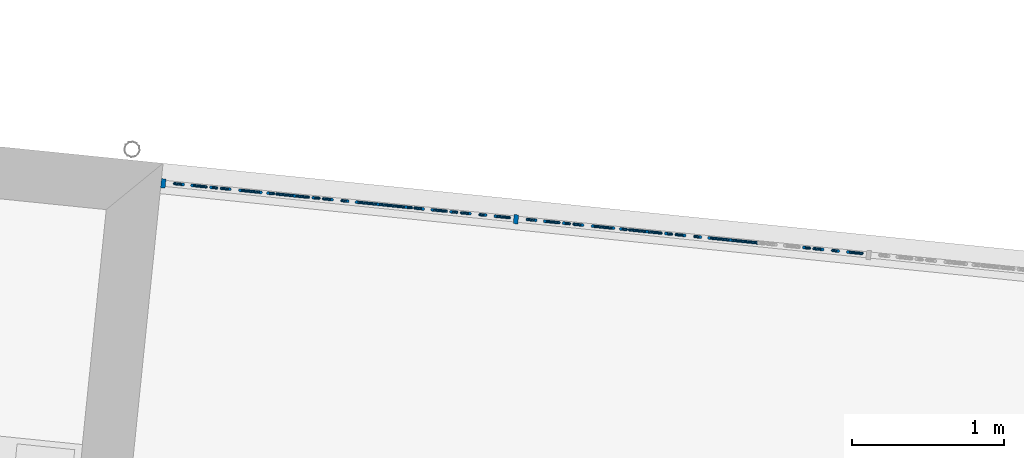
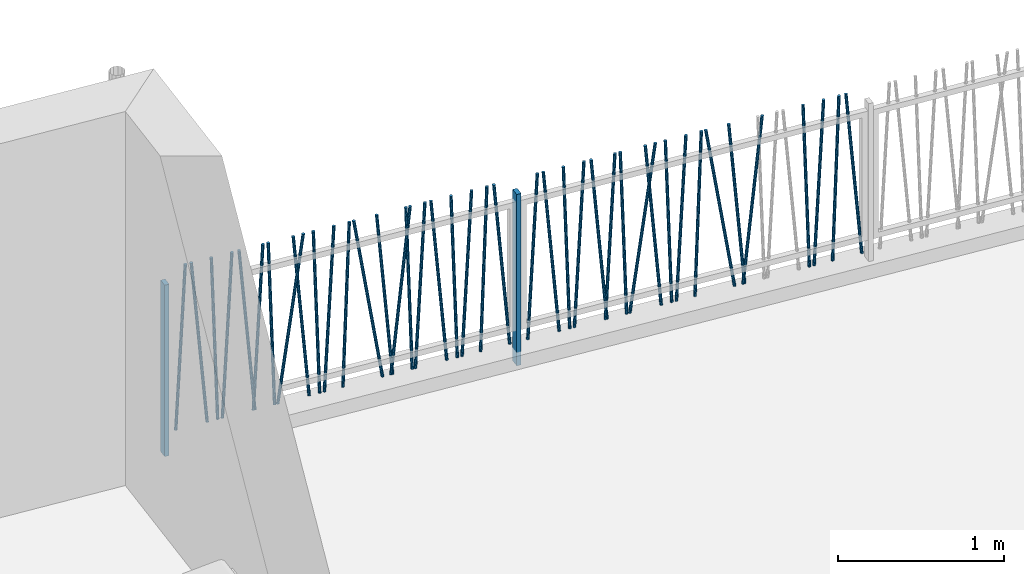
# One storey, part 15 of 171: 43 columns.
"""IFC2X3 building model written with IfcOpenShell, lengths in millimetres."""

from ifc_helpers import new_model, entity, si_unit, converted_unit, derived_unit, money_unit, direction, frame, origin_with_axes, origin_2d_with_axis, place, context, subcontext, project, spatial, rectangle, circle, extrude, clip, halfspace, material, type_object, element, save


model = new_model("IFC2X3")

# Units and contexts
model_context = context("Model", 3, precision=0.01, world=origin_with_axes(), true_north=direction((0.0, 1.0)))
body_context = subcontext(model_context, "Body", "Model", "MODEL_VIEW")
ifc_project = project(units=[si_unit("LENGTHUNIT", "METRE", prefix="MILLI"), si_unit("AREAUNIT", "SQUARE_METRE"), si_unit("VOLUMEUNIT", "CUBIC_METRE"), converted_unit("PLANEANGLEUNIT", "DEGREE", entity("IfcPlaneAngleMeasure", 0.0174532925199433), si_unit("PLANEANGLEUNIT", "RADIAN"), dimensions=[0, 0, 0, 0, 0, 0, 0]), money_unit("USD"), converted_unit("TIMEUNIT", "Year", entity("IfcTimeMeasure", 31557600.0), si_unit("TIMEUNIT", "SECOND"), dimensions=[0, 0, 1, 0, 0, 0, 0]), si_unit("MASSUNIT", "GRAM", prefix="KILO"), si_unit("THERMODYNAMICTEMPERATUREUNIT", "DEGREE_CELSIUS"), si_unit("LUMINOUSINTENSITYUNIT", "LUMEN"), si_unit("ENERGYUNIT", "JOULE", prefix="MEGA"), derived_unit("THERMALCONDUCTANCEUNIT", [(si_unit("POWERUNIT", "WATT"), 1), (si_unit("LENGTHUNIT", "METRE"), -1), (si_unit("THERMODYNAMICTEMPERATUREUNIT", "KELVIN"), -1)]), derived_unit("SPECIFICHEATCAPACITYUNIT", [(si_unit("ENERGYUNIT", "JOULE"), 1), (si_unit("MASSUNIT", "GRAM", prefix="KILO"), -1), (si_unit("THERMODYNAMICTEMPERATUREUNIT", "KELVIN"), -1)]), derived_unit("MASSDENSITYUNIT", [(si_unit("MASSUNIT", "GRAM", prefix="KILO"), 1), (si_unit("VOLUMEUNIT", "CUBIC_METRE"), -1)])], contexts=[model_context])

# Site, building, storey
site_placement = place(None, origin_with_axes())
site = spatial("IfcSite", under=ifc_project, at=site_placement, Name="Site", CompositionType="ELEMENT")
building_placement = place(site_placement, origin_with_axes())
building = spatial("IfcBuilding", under=site, at=building_placement, Name="Bâtiment", CompositionType="ELEMENT")
storey_placement = place(building_placement, frame((0.0, 0.0, 3000.0), z_axis=(0.0, 0.0, 1.0), x_axis=(1.0, 0.0, 0.0)))
storey = spatial("IfcBuildingStorey", under=building, at=storey_placement, Name="rdc", CompositionType="ELEMENT", Elevation=3000.0)

# Columns
ifc_material = material(Name="Empty Fill 2959611567")
column_type_1 = type_object("IfcColumnType", Name="Empty Fill 2959611567 D20", PredefinedType="NOTDEFINED")
column_1_placement = place(storey_placement, frame((2240769.213708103, -606421.2363160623, 149.9999999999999), z_axis=(0.0, 0.0, 1.0), x_axis=(-0.101103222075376, -0.9948759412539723, 0.0)))
element("IfcColumn", 1, at=column_1_placement, inside=storey, type_object=column_type_1, material=ifc_material, Name="Pilier-019", context=body_context, shape_type="Clipping", body=[
    clip(clip(extrude(circle(Radius=10.0, at=origin_2d_with_axis()), frame((0.0, -0.05485622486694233, -1.046719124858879), z_axis=(0.0, -0.05233595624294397, -0.9986295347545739), x_axis=(-1.0, 0.0, 0.0)), (0.0, 0.0, -1.0), 1203.743126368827), halfspace(frame((0.0, 0.0, 0.0), z_axis=(0.0, 0.0, 1.0), x_axis=(0.0, -1.0, 0.0)), True)), halfspace(frame((0.0, 0.0, 1200.0), z_axis=(0.0, 0.0, -1.0), x_axis=(0.0, 1.0, 0.0)), True)),
])
column_2_placement = place(storey_placement, frame((2241357.367310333, -606481.006807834, 149.9999999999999), z_axis=(0.0, 0.0, 1.0), x_axis=(-0.101103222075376, -0.9948759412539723, 0.0)))
element("IfcColumn", 2, at=column_2_placement, inside=storey, type_object=column_type_1, material=ifc_material, Name="Pilier-019", context=body_context, shape_type="Clipping", body=[
    clip(clip(extrude(circle(Radius=10.0, at=origin_2d_with_axis()), frame((0.0, -0.02437434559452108, -0.6979899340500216), z_axis=(0.0, -0.03489949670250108, -0.9993908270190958), x_axis=(-1.0, 0.0, 0.0)), (0.0, 0.0, -1.0), 1202.128283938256), halfspace(frame((0.0, 0.0, 0.0), z_axis=(0.0, 0.0, 1.0), x_axis=(0.0, -1.0, 0.0)), True)), halfspace(frame((0.0, 0.0, 1200.0), z_axis=(0.0, 0.0, -1.0), x_axis=(0.0, 1.0, 0.0)), True)),
])
column_3_placement = place(storey_placement, frame((2240908.314880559, -606435.3723265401, 149.9999999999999), z_axis=(0.0, 0.0, 1.0), x_axis=(0.1011032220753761, 0.9948759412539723, 0.0)))
element("IfcColumn", 3, at=column_3_placement, inside=storey, type_object=column_type_1, material=ifc_material, Name="Pilier-019", context=body_context, shape_type="Clipping", body=[
    clip(clip(extrude(circle(Radius=10.0, at=origin_2d_with_axis()), frame((0.0, -0.02437434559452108, -0.6979899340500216), z_axis=(0.0, 0.03489949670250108, 0.9993908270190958), x_axis=(1.0, 0.0, 0.0)), (0.0, 0.0, 1.0), 1202.128283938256), halfspace(frame((0.0, 0.0, 0.0), z_axis=(0.0, 0.0, 1.0), x_axis=(0.0, -1.0, 0.0)), True)), halfspace(frame((0.0, 0.0, 1200.0), z_axis=(0.0, 0.0, -1.0), x_axis=(0.0, 1.0, 0.0)), True)),
])
column_4_placement = place(storey_placement, frame((2241235.661183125, -606468.6385505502, 149.9999999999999), z_axis=(0.0, 0.0, 1.0), x_axis=(-0.101103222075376, -0.9948759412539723, 0.0)))
element("IfcColumn", 4, at=column_4_placement, inside=storey, type_object=column_type_1, material=ifc_material, Name="Pilier-019", context=body_context, shape_type="Clipping", body=[
    clip(clip(extrude(circle(Radius=10.0, at=origin_2d_with_axis()), frame((0.0, -0.05485622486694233, -1.046719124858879), z_axis=(0.0, -0.05233595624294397, -0.9986295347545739), x_axis=(-1.0, 0.0, 0.0)), (0.0, 0.0, -1.0), 1203.743126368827), halfspace(frame((0.0, 0.0, 0.0), z_axis=(0.0, 0.0, 1.0), x_axis=(0.0, -1.0, 0.0)), True)), halfspace(frame((0.0, 0.0, 1200.0), z_axis=(0.0, 0.0, -1.0), x_axis=(0.0, 1.0, 0.0)), True)),
])
column_5_placement = place(storey_placement, frame((2241683.275448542, -606514.1268799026, 149.9999999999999), z_axis=(0.0, 0.0, 1.0), x_axis=(0.1011032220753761, 0.9948759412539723, 0.0)))
element("IfcColumn", 5, at=column_5_placement, inside=storey, type_object=column_type_1, material=ifc_material, Name="Pilier-019", context=body_context, shape_type="Clipping", body=[
    clip(clip(extrude(circle(Radius=10.0, at=origin_2d_with_axis()), frame((0.0, -0.152502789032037, -1.743114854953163), z_axis=(0.0, 0.08715574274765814, 0.9961946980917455), x_axis=(1.0, 0.0, 0.0)), (0.0, 0.0, 1.0), 1208.083351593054), halfspace(frame((0.0, 0.0, 0.0), z_axis=(0.0, 0.0, 1.0), x_axis=(0.0, -1.0, 0.0)), True)), halfspace(frame((0.0, 0.0, 1200.0), z_axis=(0.0, 0.0, -1.0), x_axis=(0.0, 1.0, 0.0)), True)),
])
column_6_placement = place(storey_placement, frame((2241204.528377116, -606465.474711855, 149.9999999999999), z_axis=(0.0, 0.0, 1.0), x_axis=(0.1011032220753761, 0.9948759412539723, 0.0)))
element("IfcColumn", 6, at=column_6_placement, inside=storey, type_object=column_type_1, material=ifc_material, Name="Pilier-019", context=body_context, shape_type="Clipping", body=[
    clip(clip(extrude(circle(Radius=10.0, at=origin_2d_with_axis()), frame((0.0, -0.02437434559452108, -0.6979899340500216), z_axis=(0.0, 0.03489949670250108, 0.9993908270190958), x_axis=(1.0, 0.0, 0.0)), (0.0, 0.0, 1.0), 1202.128283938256), halfspace(frame((0.0, 0.0, 0.0), z_axis=(0.0, 0.0, 1.0), x_axis=(0.0, -1.0, 0.0)), True)), halfspace(frame((0.0, 0.0, 1200.0), z_axis=(0.0, 0.0, -1.0), x_axis=(0.0, 1.0, 0.0)), True)),
])
column_7_placement = place(storey_placement, frame((2242453.180223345, -606592.3676435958, 149.9999999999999), z_axis=(0.0, 0.0, 1.0), x_axis=(0.1011032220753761, 0.9948759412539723, 0.0)))
element("IfcColumn", 7, at=column_7_placement, inside=storey, type_object=column_type_1, material=ifc_material, Name="Pilier-019", context=body_context, shape_type="Clipping", body=[
    clip(clip(extrude(circle(Radius=10.0, at=origin_2d_with_axis()), frame((0.0, -0.152502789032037, -1.743114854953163), z_axis=(0.0, 0.08715574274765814, 0.9961946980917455), x_axis=(1.0, 0.0, 0.0)), (0.0, 0.0, 1.0), 1208.083351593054), halfspace(frame((0.0, 0.0, 0.0), z_axis=(0.0, 0.0, 1.0), x_axis=(0.0, -1.0, 0.0)), True)), halfspace(frame((0.0, 0.0, 1200.0), z_axis=(0.0, 0.0, -1.0), x_axis=(0.0, 1.0, 0.0)), True)),
])
column_8_placement = place(storey_placement, frame((2241617.366405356, -606507.4289426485, 149.9999999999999), z_axis=(0.0, 0.0, 1.0), x_axis=(0.1011032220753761, 0.9948759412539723, 0.0)))
element("IfcColumn", 8, at=column_8_placement, inside=storey, type_object=column_type_1, material=ifc_material, Name="Pilier-019", context=body_context, shape_type="Clipping", body=[
    clip(clip(extrude(circle(Radius=10.0, at=origin_2d_with_axis()), frame((0.0, -0.4955357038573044, -3.128689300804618), z_axis=(0.0, 0.1564344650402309, 0.9876883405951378), x_axis=(1.0, 0.0, 0.0)), (0.0, 0.0, 1.0), 1221.293528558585), halfspace(frame((0.0, 0.0, 0.0), z_axis=(0.0, 0.0, 1.0), x_axis=(0.0, -1.0, 0.0)), True)), halfspace(frame((0.0, 0.0, 1200.0), z_axis=(0.0, 0.0, -1.0), x_axis=(0.0, 1.0, 0.0)), True)),
])
column_9_placement = place(storey_placement, frame((2240565.676113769, -606400.5520219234, 149.9999999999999), z_axis=(0.0, 0.0, 1.0), x_axis=(-0.101103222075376, -0.9948759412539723, 0.0)))
element("IfcColumn", 9, at=column_9_placement, inside=storey, type_object=column_type_1, material=ifc_material, Name="Pilier-019", context=body_context, shape_type="Clipping", body=[
    clip(clip(extrude(circle(Radius=10.0, at=origin_2d_with_axis()), frame((0.0, -0.05485622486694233, -1.046719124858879), z_axis=(0.0, -0.05233595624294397, -0.9986295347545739), x_axis=(-1.0, 0.0, 0.0)), (0.0, 0.0, -1.0), 1203.743126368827), halfspace(frame((0.0, 0.0, 0.0), z_axis=(0.0, 0.0, 1.0), x_axis=(0.0, -1.0, 0.0)), True)), halfspace(frame((0.0, 0.0, 1200.0), z_axis=(0.0, 0.0, -1.0), x_axis=(0.0, 1.0, 0.0)), True)),
])
column_10_placement = place(storey_placement, frame((2240779.067597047, -606422.2377071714, 149.9999999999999), z_axis=(0.0, 0.0, 1.0), x_axis=(0.1011032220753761, 0.9948759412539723, 0.0)))
element("IfcColumn", 10, at=column_10_placement, inside=storey, type_object=column_type_1, material=ifc_material, Name="Pilier-019", context=body_context, shape_type="Clipping", body=[
    clip(clip(extrude(circle(Radius=10.0, at=origin_2d_with_axis()), frame((0.0, -0.152502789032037, -1.743114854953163), z_axis=(0.0, 0.08715574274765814, 0.9961946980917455), x_axis=(1.0, 0.0, 0.0)), (0.0, 0.0, 1.0), 1208.083351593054), halfspace(frame((0.0, 0.0, 0.0), z_axis=(0.0, 0.0, 1.0), x_axis=(0.0, -1.0, 0.0)), True)), halfspace(frame((0.0, 0.0, 1200.0), z_axis=(0.0, 0.0, -1.0), x_axis=(0.0, 1.0, 0.0)), True)),
])
column_11_placement = place(storey_placement, frame((2241673.421559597, -606513.1254887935, 149.9999999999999), z_axis=(0.0, 0.0, 1.0), x_axis=(-0.101103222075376, -0.9948759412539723, 0.0)))
element("IfcColumn", 11, at=column_11_placement, inside=storey, type_object=column_type_1, material=ifc_material, Name="Pilier-019", context=body_context, shape_type="Clipping", body=[
    clip(clip(extrude(circle(Radius=10.0, at=origin_2d_with_axis()), frame((0.0, -0.2197276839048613, -2.090569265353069), z_axis=(0.0, -0.1045284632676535, -0.9945218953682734), x_axis=(-1.0, 0.0, 0.0)), (0.0, 0.0, -1.0), 1210.814104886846), halfspace(frame((0.0, 0.0, 0.0), z_axis=(0.0, 0.0, 1.0), x_axis=(0.0, -1.0, 0.0)), True)), halfspace(frame((0.0, 0.0, 1200.0), z_axis=(0.0, 0.0, -1.0), x_axis=(0.0, 1.0, 0.0)), True)),
])
column_12_placement = place(storey_placement, frame((2241135.419969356, -606458.4516425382, 149.9999999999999), z_axis=(0.0, 0.0, 1.0), x_axis=(0.1011032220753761, 0.9948759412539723, 0.0)))
element("IfcColumn", 12, at=column_12_placement, inside=storey, type_object=column_type_1, material=ifc_material, Name="Pilier-019", context=body_context, shape_type="Clipping", body=[
    clip(clip(extrude(circle(Radius=10.0, at=origin_2d_with_axis()), frame((0.0, -0.152502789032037, -1.743114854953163), z_axis=(0.0, 0.08715574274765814, 0.9961946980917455), x_axis=(1.0, 0.0, 0.0)), (0.0, 0.0, 1.0), 1208.083351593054), halfspace(frame((0.0, 0.0, 0.0), z_axis=(0.0, 0.0, 1.0), x_axis=(0.0, -1.0, 0.0)), True)), halfspace(frame((0.0, 0.0, 1200.0), z_axis=(0.0, 0.0, -1.0), x_axis=(0.0, 1.0, 0.0)), True)),
])
column_13_placement = place(storey_placement, frame((2242139.86903462, -606560.5277232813, 149.9999999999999), z_axis=(0.0, 0.0, 1.0), x_axis=(-0.101103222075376, -0.9948759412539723, 0.0)))
element("IfcColumn", 13, at=column_13_placement, inside=storey, type_object=column_type_1, material=ifc_material, Name="Pilier-019", context=body_context, shape_type="Clipping", body=[
    clip(clip(extrude(circle(Radius=10.0, at=origin_2d_with_axis()), frame((0.0, -0.05485622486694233, -1.046719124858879), z_axis=(0.0, -0.05233595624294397, -0.9986295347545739), x_axis=(-1.0, 0.0, 0.0)), (0.0, 0.0, -1.0), 1203.743126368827), halfspace(frame((0.0, 0.0, 0.0), z_axis=(0.0, 0.0, 1.0), x_axis=(0.0, -1.0, 0.0)), True)), halfspace(frame((0.0, 0.0, 1200.0), z_axis=(0.0, 0.0, -1.0), x_axis=(0.0, 1.0, 0.0)), True)),
])
for number, where, z_axis, x_axis, name in (
    (14, (2240534.54330776, -606397.3881832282, 149.9999999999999), (0.0, 0.0, 1.0), (0.1011032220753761, 0.9948759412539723, 0.0), "Pilier-019"),
    (15, (2242108.736228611, -606557.3638845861, 149.9999999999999), (0.0, 0.0, 1.0), (0.1011032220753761, 0.9948759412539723, 0.0), "Pilier-019"),
):
    element("IfcColumn", number, at=place(storey_placement, frame(where, z_axis=z_axis, x_axis=x_axis)), inside=storey, type_object=column_type_1, material=ifc_material, Name=name, context=body_context, shape_type="Clipping", body=[
        clip(clip(extrude(circle(Radius=10.0, at=origin_2d_with_axis()), frame((0.0, -0.02437434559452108, -0.6979899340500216), z_axis=(0.0, 0.03489949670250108, 0.9993908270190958), x_axis=(1.0, 0.0, 0.0)), (0.0, 0.0, 1.0), 1202.128283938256), halfspace(frame((0.0, 0.0, 0.0), z_axis=(0.0, 0.0, 1.0), x_axis=(0.0, -1.0, 0.0)), True)), halfspace(frame((0.0, 0.0, 1200.0), z_axis=(0.0, 0.0, -1.0), x_axis=(0.0, 1.0, 0.0)), True)),
    ])
column_14_placement = place(storey_placement, frame((2240929.340963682, -606437.5090801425, 149.9999999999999), z_axis=(0.0, 0.0, 1.0), x_axis=(-0.101103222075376, -0.9948759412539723, 0.0)))
element("IfcColumn", 16, at=column_14_placement, inside=storey, type_object=column_type_1, material=ifc_material, Name="Pilier-019", context=body_context, shape_type="Clipping", body=[
    clip(clip(extrude(circle(Radius=10.0, at=origin_2d_with_axis()), frame((0.0, -0.3911900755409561, -2.78346201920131), z_axis=(0.0, -0.1391731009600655, -0.9902680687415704), x_axis=(-1.0, 0.0, 0.0)), (0.0, 0.0, -1.0), 1217.414720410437), halfspace(frame((0.0, 0.0, 0.0), z_axis=(0.0, 0.0, 1.0), x_axis=(0.0, -1.0, 0.0)), True)), halfspace(frame((0.0, 0.0, 1200.0), z_axis=(0.0, 0.0, -1.0), x_axis=(0.0, 1.0, 0.0)), True)),
])
column_15_placement = place(storey_placement, frame((2241833.548815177, -606529.3982528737, 149.9999999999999), z_axis=(0.0, 0.0, 1.0), x_axis=(-0.101103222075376, -0.9948759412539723, 0.0)))
element("IfcColumn", 17, at=column_15_placement, inside=storey, type_object=column_type_1, material=ifc_material, Name="Pilier-019", context=body_context, shape_type="Clipping", body=[
    clip(clip(extrude(circle(Radius=10.0, at=origin_2d_with_axis()), frame((0.0, -0.05485622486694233, -1.046719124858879), z_axis=(0.0, -0.05233595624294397, -0.9986295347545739), x_axis=(-1.0, 0.0, 0.0)), (0.0, 0.0, -1.0), 1203.743126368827), halfspace(frame((0.0, 0.0, 0.0), z_axis=(0.0, 0.0, 1.0), x_axis=(0.0, -1.0, 0.0)), True)), halfspace(frame((0.0, 0.0, 1200.0), z_axis=(0.0, 0.0, -1.0), x_axis=(0.0, 1.0, 0.0)), True)),
])
column_16_placement = place(storey_placement, frame((2242261.575161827, -606572.8959805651, 149.9999999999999), z_axis=(0.0, 0.0, 1.0), x_axis=(-0.101103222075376, -0.9948759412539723, 0.0)))
element("IfcColumn", 18, at=column_16_placement, inside=storey, type_object=column_type_1, material=ifc_material, Name="Pilier-019", context=body_context, shape_type="Clipping", body=[
    clip(clip(extrude(circle(Radius=10.0, at=origin_2d_with_axis()), frame((0.0, -0.02437434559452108, -0.6979899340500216), z_axis=(0.0, -0.03489949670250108, -0.9993908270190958), x_axis=(-1.0, 0.0, 0.0)), (0.0, 0.0, -1.0), 1202.128283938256), halfspace(frame((0.0, 0.0, 0.0), z_axis=(0.0, 0.0, 1.0), x_axis=(0.0, -1.0, 0.0)), True)), halfspace(frame((0.0, 0.0, 1200.0), z_axis=(0.0, 0.0, -1.0), x_axis=(0.0, 1.0, 0.0)), True)),
])
column_17_placement = place(storey_placement, frame((2242039.627820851, -606550.3408152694, 149.9999999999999), z_axis=(0.0, 0.0, 1.0), x_axis=(0.1011032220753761, 0.9948759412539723, 0.0)))
element("IfcColumn", 19, at=column_17_placement, inside=storey, type_object=column_type_1, material=ifc_material, Name="Pilier-019", context=body_context, shape_type="Clipping", body=[
    clip(clip(extrude(circle(Radius=10.0, at=origin_2d_with_axis()), frame((0.0, -0.152502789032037, -1.743114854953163), z_axis=(0.0, 0.08715574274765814, 0.9961946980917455), x_axis=(1.0, 0.0, 0.0)), (0.0, 0.0, 1.0), 1208.083351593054), halfspace(frame((0.0, 0.0, 0.0), z_axis=(0.0, 0.0, 1.0), x_axis=(0.0, -1.0, 0.0)), True)), halfspace(frame((0.0, 0.0, 1200.0), z_axis=(0.0, 0.0, -1.0), x_axis=(0.0, 1.0, 0.0)), True)),
])
column_18_placement = place(storey_placement, frame((2241812.522732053, -606527.2614992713, 149.9999999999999), z_axis=(0.0, 0.0, 1.0), x_axis=(0.1011032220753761, 0.9948759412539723, 0.0)))
element("IfcColumn", 20, at=column_18_placement, inside=storey, type_object=column_type_1, material=ifc_material, Name="Pilier-019", context=body_context, shape_type="Clipping", body=[
    clip(clip(extrude(circle(Radius=10.0, at=origin_2d_with_axis()), frame((0.0, -0.02437434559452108, -0.6979899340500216), z_axis=(0.0, 0.03489949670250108, 0.9993908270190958), x_axis=(1.0, 0.0, 0.0)), (0.0, 0.0, 1.0), 1202.128283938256), halfspace(frame((0.0, 0.0, 0.0), z_axis=(0.0, 0.0, 1.0), x_axis=(0.0, -1.0, 0.0)), True)), halfspace(frame((0.0, 0.0, 1200.0), z_axis=(0.0, 0.0, -1.0), x_axis=(0.0, 1.0, 0.0)), True)),
])
column_19_placement = place(storey_placement, frame((2240465.4349, -606390.3651139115, 149.9999999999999), z_axis=(0.0, 0.0, 1.0), x_axis=(0.1011032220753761, 0.9948759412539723, 0.0)))
element("IfcColumn", 21, at=column_19_placement, inside=storey, type_object=column_type_1, material=ifc_material, Name="Pilier-019", context=body_context, shape_type="Clipping", body=[
    clip(clip(extrude(circle(Radius=10.0, at=origin_2d_with_axis()), frame((0.0, -0.152502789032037, -1.743114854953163), z_axis=(0.0, 0.08715574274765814, 0.9961946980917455), x_axis=(1.0, 0.0, 0.0)), (0.0, 0.0, 1.0), 1208.083351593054), halfspace(frame((0.0, 0.0, 0.0), z_axis=(0.0, 0.0, 1.0), x_axis=(0.0, -1.0, 0.0)), True)), halfspace(frame((0.0, 0.0, 1200.0), z_axis=(0.0, 0.0, -1.0), x_axis=(0.0, 1.0, 0.0)), True)),
])
column_20_placement = place(storey_placement, frame((2243669.924578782, -606716.0180101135, 149.9999999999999), z_axis=(0.0, 0.0, 1.0), x_axis=(-0.101103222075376, -0.9948759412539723, 0.0)))
element("IfcColumn", 22, at=column_20_placement, inside=storey, type_object=column_type_1, material=ifc_material, Name="Pilier-019", context=body_context, shape_type="Clipping", body=[
    clip(clip(extrude(circle(Radius=10.0, at=origin_2d_with_axis()), frame((0.0, -0.02437434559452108, -0.6979899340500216), z_axis=(0.0, -0.03489949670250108, -0.9993908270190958), x_axis=(-1.0, 0.0, 0.0)), (0.0, 0.0, -1.0), 1202.128283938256), halfspace(frame((0.0, 0.0, 0.0), z_axis=(0.0, 0.0, 1.0), x_axis=(0.0, -1.0, 0.0)), True)), halfspace(frame((0.0, 0.0, 1200.0), z_axis=(0.0, 0.0, -1.0), x_axis=(0.0, 1.0, 0.0)), True)),
])
column_21_placement = place(storey_placement, frame((2243517.085645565, -606700.4859141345, 149.9999999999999), z_axis=(0.0, 0.0, 1.0), x_axis=(0.1011032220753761, 0.9948759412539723, 0.0)))
element("IfcColumn", 23, at=column_21_placement, inside=storey, type_object=column_type_1, material=ifc_material, Name="Pilier-019", context=body_context, shape_type="Clipping", body=[
    clip(clip(extrude(circle(Radius=10.0, at=origin_2d_with_axis()), frame((0.0, -0.02437434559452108, -0.6979899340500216), z_axis=(0.0, 0.03489949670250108, 0.9993908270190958), x_axis=(1.0, 0.0, 0.0)), (0.0, 0.0, 1.0), 1202.128283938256), halfspace(frame((0.0, 0.0, 0.0), z_axis=(0.0, 0.0, 1.0), x_axis=(0.0, -1.0, 0.0)), True)), halfspace(frame((0.0, 0.0, 1200.0), z_axis=(0.0, 0.0, -1.0), x_axis=(0.0, 1.0, 0.0)), True)),
])
column_22_placement = place(storey_placement, frame((2243081.770976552, -606656.2475183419, 149.9999999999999), z_axis=(0.0, 0.0, 1.0), x_axis=(-0.101103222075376, -0.9948759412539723, 0.0)))
element("IfcColumn", 24, at=column_22_placement, inside=storey, type_object=column_type_1, material=ifc_material, Name="Pilier-019", context=body_context, shape_type="Clipping", body=[
    clip(clip(extrude(circle(Radius=10.0, at=origin_2d_with_axis()), frame((0.0, -0.05485622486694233, -1.046719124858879), z_axis=(0.0, -0.05233595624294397, -0.9986295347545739), x_axis=(-1.0, 0.0, 0.0)), (0.0, 0.0, -1.0), 1203.743126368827), halfspace(frame((0.0, 0.0, 0.0), z_axis=(0.0, 0.0, 1.0), x_axis=(0.0, -1.0, 0.0)), True)), halfspace(frame((0.0, 0.0, 1200.0), z_axis=(0.0, 0.0, -1.0), x_axis=(0.0, 1.0, 0.0)), True)),
])
column_23_placement = place(storey_placement, frame((2243220.872149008, -606670.3835288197, 149.9999999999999), z_axis=(0.0, 0.0, 1.0), x_axis=(0.1011032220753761, 0.9948759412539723, 0.0)))
element("IfcColumn", 25, at=column_23_placement, inside=storey, type_object=column_type_1, material=ifc_material, Name="Pilier-019", context=body_context, shape_type="Clipping", body=[
    clip(clip(extrude(circle(Radius=10.0, at=origin_2d_with_axis()), frame((0.0, -0.02437434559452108, -0.6979899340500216), z_axis=(0.0, 0.03489949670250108, 0.9993908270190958), x_axis=(1.0, 0.0, 0.0)), (0.0, 0.0, 1.0), 1202.128283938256), halfspace(frame((0.0, 0.0, 0.0), z_axis=(0.0, 0.0, 1.0), x_axis=(0.0, -1.0, 0.0)), True)), halfspace(frame((0.0, 0.0, 1200.0), z_axis=(0.0, 0.0, -1.0), x_axis=(0.0, 1.0, 0.0)), True)),
])
for number, where, z_axis, x_axis, name in (
    (26, (2243548.218451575, -606703.6497528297, 149.9999999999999), (0.0, 0.0, 1.0), (-0.101103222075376, -0.9948759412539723, 0.0), "Pilier-019"),
    (27, (2240259.355894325, -606369.4225515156, 149.9999999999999), (0.0, 0.0, 1.0), (-0.101103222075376, -0.9948759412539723, 0.0), "Pilier-019"),
):
    element("IfcColumn", number, at=place(storey_placement, frame(where, z_axis=z_axis, x_axis=x_axis)), inside=storey, type_object=column_type_1, material=ifc_material, Name=name, context=body_context, shape_type="Clipping", body=[
        clip(clip(extrude(circle(Radius=10.0, at=origin_2d_with_axis()), frame((0.0, -0.05485622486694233, -1.046719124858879), z_axis=(0.0, -0.05233595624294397, -0.9986295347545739), x_axis=(-1.0, 0.0, 0.0)), (0.0, 0.0, -1.0), 1203.743126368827), halfspace(frame((0.0, 0.0, 0.0), z_axis=(0.0, 0.0, 1.0), x_axis=(0.0, -1.0, 0.0)), True)), halfspace(frame((0.0, 0.0, 1200.0), z_axis=(0.0, 0.0, -1.0), x_axis=(0.0, 1.0, 0.0)), True)),
    ])
for number, where, z_axis, x_axis, name in (
    (28, (2244765.737491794, -606827.3788458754, 149.9999999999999), (0.0, 0.0, 1.0), (0.1011032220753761, 0.9948759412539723, 0.0), "Pilier-019"),
    (29, (2243995.832716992, -606749.138082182, 149.9999999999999), (0.0, 0.0, 1.0), (0.1011032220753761, 0.9948759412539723, 0.0), "Pilier-019"),
):
    element("IfcColumn", number, at=place(storey_placement, frame(where, z_axis=z_axis, x_axis=x_axis)), inside=storey, type_object=column_type_1, material=ifc_material, Name=name, context=body_context, shape_type="Clipping", body=[
        clip(clip(extrude(circle(Radius=10.0, at=origin_2d_with_axis()), frame((0.0, -0.152502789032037, -1.743114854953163), z_axis=(0.0, 0.08715574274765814, 0.9961946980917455), x_axis=(1.0, 0.0, 0.0)), (0.0, 0.0, 1.0), 1208.083351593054), halfspace(frame((0.0, 0.0, 0.0), z_axis=(0.0, 0.0, 1.0), x_axis=(0.0, -1.0, 0.0)), True)), halfspace(frame((0.0, 0.0, 1200.0), z_axis=(0.0, 0.0, -1.0), x_axis=(0.0, 1.0, 0.0)), True)),
    ])
column_24_placement = place(storey_placement, frame((2242878.233382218, -606635.5632242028, 149.9999999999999), z_axis=(0.0, 0.0, 1.0), x_axis=(-0.101103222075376, -0.9948759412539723, 0.0)))
element("IfcColumn", 30, at=column_24_placement, inside=storey, type_object=column_type_1, material=ifc_material, Name="Pilier-019", context=body_context, shape_type="Clipping", body=[
    clip(clip(extrude(circle(Radius=10.0, at=origin_2d_with_axis()), frame((0.0, -0.05485622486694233, -1.046719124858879), z_axis=(0.0, -0.05233595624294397, -0.9986295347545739), x_axis=(-1.0, 0.0, 0.0)), (0.0, 0.0, -1.0), 1203.743126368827), halfspace(frame((0.0, 0.0, 0.0), z_axis=(0.0, 0.0, 1.0), x_axis=(0.0, -1.0, 0.0)), True)), halfspace(frame((0.0, 0.0, 1200.0), z_axis=(0.0, 0.0, -1.0), x_axis=(0.0, 1.0, 0.0)), True)),
])
column_25_placement = place(storey_placement, frame((2242847.100576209, -606632.3993855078, 149.9999999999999), z_axis=(0.0, 0.0, 1.0), x_axis=(0.1011032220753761, 0.9948759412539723, 0.0)))
element("IfcColumn", 31, at=column_25_placement, inside=storey, type_object=column_type_1, material=ifc_material, Name="Pilier-019", context=body_context, shape_type="Clipping", body=[
    clip(clip(extrude(circle(Radius=10.0, at=origin_2d_with_axis()), frame((0.0, -0.02437434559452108, -0.6979899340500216), z_axis=(0.0, 0.03489949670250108, 0.9993908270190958), x_axis=(1.0, 0.0, 0.0)), (0.0, 0.0, 1.0), 1202.128283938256), halfspace(frame((0.0, 0.0, 0.0), z_axis=(0.0, 0.0, 1.0), x_axis=(0.0, -1.0, 0.0)), True)), halfspace(frame((0.0, 0.0, 1200.0), z_axis=(0.0, 0.0, -1.0), x_axis=(0.0, 1.0, 0.0)), True)),
])
column_26_placement = place(storey_placement, frame((2243241.898232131, -606672.5202824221, 149.9999999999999), z_axis=(0.0, 0.0, 1.0), x_axis=(-0.101103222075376, -0.9948759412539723, 0.0)))
element("IfcColumn", 32, at=column_26_placement, inside=storey, type_object=column_type_1, material=ifc_material, Name="Pilier-019", context=body_context, shape_type="Clipping", body=[
    clip(clip(extrude(circle(Radius=10.0, at=origin_2d_with_axis()), frame((0.0, -0.3911900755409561, -2.78346201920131), z_axis=(0.0, -0.1391731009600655, -0.9902680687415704), x_axis=(-1.0, 0.0, 0.0)), (0.0, 0.0, -1.0), 1217.414720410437), halfspace(frame((0.0, 0.0, 0.0), z_axis=(0.0, 0.0, 1.0), x_axis=(0.0, -1.0, 0.0)), True)), halfspace(frame((0.0, 0.0, 1200.0), z_axis=(0.0, 0.0, -1.0), x_axis=(0.0, 1.0, 0.0)), True)),
])
for number, where, z_axis, x_axis, name in (
    (33, (2243447.977237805, -606693.4628448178, 149.9999999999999), (0.0, 0.0, 1.0), (0.1011032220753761, 0.9948759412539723, 0.0), "Pilier-019"),
    (34, (2243091.624865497, -606657.248909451, 149.9999999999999), (0.0, 0.0, 1.0), (0.1011032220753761, 0.9948759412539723, 0.0), "Pilier-019"),
):
    element("IfcColumn", number, at=place(storey_placement, frame(where, z_axis=z_axis, x_axis=x_axis)), inside=storey, type_object=column_type_1, material=ifc_material, Name=name, context=body_context, shape_type="Clipping", body=[
        clip(clip(extrude(circle(Radius=10.0, at=origin_2d_with_axis()), frame((0.0, -0.152502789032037, -1.743114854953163), z_axis=(0.0, 0.08715574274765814, 0.9961946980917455), x_axis=(1.0, 0.0, 0.0)), (0.0, 0.0, 1.0), 1208.083351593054), halfspace(frame((0.0, 0.0, 0.0), z_axis=(0.0, 0.0, 1.0), x_axis=(0.0, -1.0, 0.0)), True)), halfspace(frame((0.0, 0.0, 1200.0), z_axis=(0.0, 0.0, -1.0), x_axis=(0.0, 1.0, 0.0)), True)),
    ])
column_27_placement = place(storey_placement, frame((2244452.42630307, -606795.5389255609, 149.9999999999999), z_axis=(0.0, 0.0, 1.0), x_axis=(-0.101103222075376, -0.9948759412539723, 0.0)))
element("IfcColumn", 35, at=column_27_placement, inside=storey, type_object=column_type_1, material=ifc_material, Name="Pilier-019", context=body_context, shape_type="Clipping", body=[
    clip(clip(extrude(circle(Radius=10.0, at=origin_2d_with_axis()), frame((0.0, -0.05485622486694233, -1.046719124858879), z_axis=(0.0, -0.05233595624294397, -0.9986295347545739), x_axis=(-1.0, 0.0, 0.0)), (0.0, 0.0, -1.0), 1203.743126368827), halfspace(frame((0.0, 0.0, 0.0), z_axis=(0.0, 0.0, 1.0), x_axis=(0.0, -1.0, 0.0)), True)), halfspace(frame((0.0, 0.0, 1200.0), z_axis=(0.0, 0.0, -1.0), x_axis=(0.0, 1.0, 0.0)), True)),
])
column_28_placement = place(storey_placement, frame((2243985.978828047, -606748.136691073, 149.9999999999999), z_axis=(0.0, 0.0, 1.0), x_axis=(-0.101103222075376, -0.9948759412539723, 0.0)))
element("IfcColumn", 36, at=column_28_placement, inside=storey, type_object=column_type_1, material=ifc_material, Name="Pilier-019", context=body_context, shape_type="Clipping", body=[
    clip(clip(extrude(circle(Radius=10.0, at=origin_2d_with_axis()), frame((0.0, -0.2197276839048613, -2.090569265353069), z_axis=(0.0, -0.1045284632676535, -0.9945218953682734), x_axis=(-1.0, 0.0, 0.0)), (0.0, 0.0, -1.0), 1210.814104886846), halfspace(frame((0.0, 0.0, 0.0), z_axis=(0.0, 0.0, 1.0), x_axis=(0.0, -1.0, 0.0)), True)), halfspace(frame((0.0, 0.0, 1200.0), z_axis=(0.0, 0.0, -1.0), x_axis=(0.0, 1.0, 0.0)), True)),
])
column_29_placement = place(storey_placement, frame((2244421.29349706, -606792.3750868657, 149.9999999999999), z_axis=(0.0, 0.0, 1.0), x_axis=(0.1011032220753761, 0.9948759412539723, 0.0)))
element("IfcColumn", 37, at=column_29_placement, inside=storey, type_object=column_type_1, material=ifc_material, Name="Pilier-019", context=body_context, shape_type="Clipping", body=[
    clip(clip(extrude(circle(Radius=10.0, at=origin_2d_with_axis()), frame((0.0, -0.02437434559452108, -0.6979899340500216), z_axis=(0.0, 0.03489949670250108, 0.9993908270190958), x_axis=(1.0, 0.0, 0.0)), (0.0, 0.0, 1.0), 1202.128283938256), halfspace(frame((0.0, 0.0, 0.0), z_axis=(0.0, 0.0, 1.0), x_axis=(0.0, -1.0, 0.0)), True)), halfspace(frame((0.0, 0.0, 1200.0), z_axis=(0.0, 0.0, -1.0), x_axis=(0.0, 1.0, 0.0)), True)),
])
column_30_placement = place(storey_placement, frame((2244574.132430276, -606807.9071828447, 149.9999999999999), z_axis=(0.0, 0.0, 1.0), x_axis=(-0.101103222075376, -0.9948759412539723, 0.0)))
element("IfcColumn", 38, at=column_30_placement, inside=storey, type_object=column_type_1, material=ifc_material, Name="Pilier-019", context=body_context, shape_type="Clipping", body=[
    clip(clip(extrude(circle(Radius=10.0, at=origin_2d_with_axis()), frame((0.0, -0.02437434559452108, -0.6979899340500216), z_axis=(0.0, -0.03489949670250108, -0.9993908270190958), x_axis=(-1.0, 0.0, 0.0)), (0.0, 0.0, -1.0), 1202.128283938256), halfspace(frame((0.0, 0.0, 0.0), z_axis=(0.0, 0.0, 1.0), x_axis=(0.0, -1.0, 0.0)), True)), halfspace(frame((0.0, 0.0, 1200.0), z_axis=(0.0, 0.0, -1.0), x_axis=(0.0, 1.0, 0.0)), True)),
])
column_31_placement = place(storey_placement, frame((2242777.992168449, -606625.376316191, 149.9999999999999), z_axis=(0.0, 0.0, 1.0), x_axis=(0.1011032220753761, 0.9948759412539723, 0.0)))
element("IfcColumn", 39, at=column_31_placement, inside=storey, type_object=column_type_1, material=ifc_material, Name="Pilier-019", context=body_context, shape_type="Clipping", body=[
    clip(clip(extrude(circle(Radius=10.0, at=origin_2d_with_axis()), frame((0.0, -0.152502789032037, -1.743114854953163), z_axis=(0.0, 0.08715574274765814, 0.9961946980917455), x_axis=(1.0, 0.0, 0.0)), (0.0, 0.0, 1.0), 1208.083351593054), halfspace(frame((0.0, 0.0, 0.0), z_axis=(0.0, 0.0, 1.0), x_axis=(0.0, -1.0, 0.0)), True)), halfspace(frame((0.0, 0.0, 1200.0), z_axis=(0.0, 0.0, -1.0), x_axis=(0.0, 1.0, 0.0)), True)),
])
column_32_placement = place(storey_placement, frame((2242571.913162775, -606604.4337537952, 149.9999999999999), z_axis=(0.0, 0.0, 1.0), x_axis=(-0.101103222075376, -0.9948759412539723, 0.0)))
element("IfcColumn", 40, at=column_32_placement, inside=storey, type_object=column_type_1, material=ifc_material, Name="Pilier-019", context=body_context, shape_type="Clipping", body=[
    clip(clip(extrude(circle(Radius=10.0, at=origin_2d_with_axis()), frame((0.0, -0.05485622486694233, -1.046719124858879), z_axis=(0.0, -0.05233595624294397, -0.9986295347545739), x_axis=(-1.0, 0.0, 0.0)), (0.0, 0.0, -1.0), 1203.743126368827), halfspace(frame((0.0, 0.0, 0.0), z_axis=(0.0, 0.0, 1.0), x_axis=(0.0, -1.0, 0.0)), True)), halfspace(frame((0.0, 0.0, 1200.0), z_axis=(0.0, 0.0, -1.0), x_axis=(0.0, 1.0, 0.0)), True)),
])
column_33_placement = place(storey_placement, frame((2243929.923673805, -606742.440144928, 149.9999999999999), z_axis=(0.0, 0.0, 1.0), x_axis=(0.1011032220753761, 0.9948759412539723, 0.0)))
element("IfcColumn", 41, at=column_33_placement, inside=storey, type_object=column_type_1, material=ifc_material, Name="Pilier-019", context=body_context, shape_type="Clipping", body=[
    clip(clip(extrude(circle(Radius=10.0, at=origin_2d_with_axis()), frame((0.0, -0.4955357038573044, -3.128689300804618), z_axis=(0.0, 0.1564344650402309, 0.9876883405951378), x_axis=(1.0, 0.0, 0.0)), (0.0, 0.0, 1.0), 1221.293528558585), halfspace(frame((0.0, 0.0, 0.0), z_axis=(0.0, 0.0, 1.0), x_axis=(0.0, -1.0, 0.0)), True)), halfspace(frame((0.0, 0.0, 1200.0), z_axis=(0.0, 0.0, -1.0), x_axis=(0.0, 1.0, 0.0)), True)),
])
column_type_2 = type_object("IfcColumnType", Name="Empty Fill 2959611567 30 x 60", PredefinedType="NOTDEFINED")
for number, where, z_axis, x_axis, name in (
    (42, (2242497.193988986, -606602.8976969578, 0.0), (0.0, 0.0, 1.0), (0.9948759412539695, -0.1011032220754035, 0.0), "Pilier-019"),
    (43, (2240184.636720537, -606367.8864946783, 0.0), (0.0, 0.0, 1.0), (0.9948759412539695, -0.1011032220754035, 0.0), "Pilier-019"),
):
    element("IfcColumn", number, at=place(storey_placement, frame(where, z_axis=z_axis, x_axis=x_axis)), inside=storey, type_object=column_type_2, material=ifc_material, Name=name, context=body_context, shape_type="SweptSolid", body=[
        extrude(rectangle(XDim=30.0, YDim=60.0, at=origin_2d_with_axis()), origin_with_axes(), (0.0, 0.0, 1.0), 1260.0),
    ])

save(model, "model.ifc")
